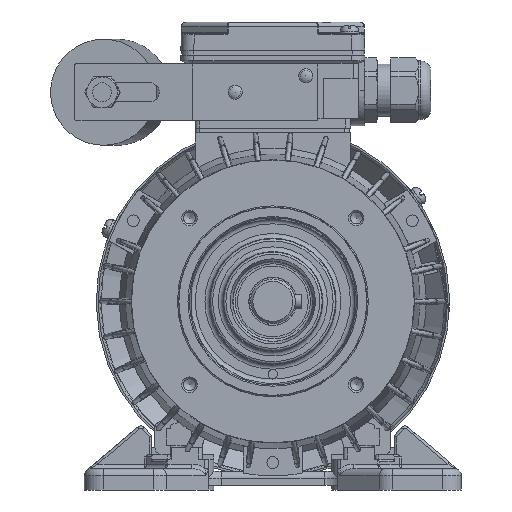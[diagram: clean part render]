
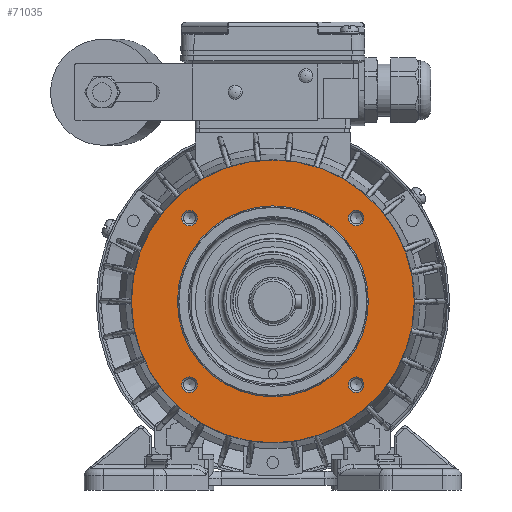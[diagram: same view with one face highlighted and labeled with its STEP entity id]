
A CAD part, left-side view. The second image highlights one B-rep face of the part: STEP entity #71035.
In plain terms, the highlighted planar face has unit normal (-1, 0, 0).
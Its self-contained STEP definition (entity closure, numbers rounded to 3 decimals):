
#9367=PLANE('',#75222);
#20945=ORIENTED_EDGE('',*,*,#32075,.T.);
#20946=ORIENTED_EDGE('',*,*,#32076,.T.);
#20947=ORIENTED_EDGE('',*,*,#32077,.T.);
#20948=ORIENTED_EDGE('',*,*,#32078,.T.);
#20949=ORIENTED_EDGE('',*,*,#32079,.T.);
#20950=ORIENTED_EDGE('',*,*,#31888,.T.);
#31888=EDGE_CURVE('',#38244,#38244,#41776,.T.);
#32075=EDGE_CURVE('',#38360,#38360,#41820,.F.);
#32076=EDGE_CURVE('',#38361,#38361,#41821,.F.);
#32077=EDGE_CURVE('',#38362,#38362,#41822,.F.);
#32078=EDGE_CURVE('',#38363,#38363,#41823,.F.);
#32079=EDGE_CURVE('',#38364,#38364,#41824,.F.);
#38244=VERTEX_POINT('',#110434);
#38360=VERTEX_POINT('',#112437);
#38361=VERTEX_POINT('',#112439);
#38362=VERTEX_POINT('',#112441);
#38363=VERTEX_POINT('',#112443);
#38364=VERTEX_POINT('',#112445);
#41776=CIRCLE('',#75109,60.);
#41820=CIRCLE('',#75223,3.3);
#41821=CIRCLE('',#75224,3.3);
#41822=CIRCLE('',#75225,3.3);
#41823=CIRCLE('',#75226,3.3);
#41824=CIRCLE('',#75227,40.5);
#44606=EDGE_LOOP('',(#20945));
#44607=EDGE_LOOP('',(#20946));
#44608=EDGE_LOOP('',(#20947));
#44609=EDGE_LOOP('',(#20948));
#44610=EDGE_LOOP('',(#20949));
#44611=EDGE_LOOP('',(#20950));
#48019=FACE_BOUND('',#44606,.T.);
#48020=FACE_BOUND('',#44607,.T.);
#48021=FACE_BOUND('',#44608,.T.);
#48022=FACE_BOUND('',#44609,.T.);
#48023=FACE_BOUND('',#44610,.T.);
#48024=FACE_BOUND('',#44611,.T.);
#71035=ADVANCED_FACE('',(#48019,#48020,#48021,#48022,#48023,#48024),#9367,
 .T.);
#75109=AXIS2_PLACEMENT_3D('',#110433,#85365,#85366);
#75222=AXIS2_PLACEMENT_3D('',#112435,#85633,#85634);
#75223=AXIS2_PLACEMENT_3D('',#112436,#85635,#85636);
#75224=AXIS2_PLACEMENT_3D('',#112438,#85637,#85638);
#75225=AXIS2_PLACEMENT_3D('',#112440,#85639,#85640);
#75226=AXIS2_PLACEMENT_3D('',#112442,#85641,#85642);
#75227=AXIS2_PLACEMENT_3D('',#112444,#85643,#85644);
#85365=DIRECTION('',(-1.,0.,0.));
#85366=DIRECTION('',(0.,0.,-1.));
#85633=DIRECTION('',(-1.,0.,0.));
#85634=DIRECTION('',(0.,0.,-1.));
#85635=DIRECTION('',(-1.,0.,0.));
#85636=DIRECTION('',(0.,0.,-1.));
#85637=DIRECTION('',(-1.,0.,0.));
#85638=DIRECTION('',(0.,0.,-1.));
#85639=DIRECTION('',(-1.,0.,0.));
#85640=DIRECTION('',(0.,0.,-1.));
#85641=DIRECTION('',(-1.,0.,0.));
#85642=DIRECTION('',(0.,0.,-1.));
#85643=DIRECTION('',(-1.,0.,0.));
#85644=DIRECTION('',(0.,0.,-1.));
#110433=CARTESIAN_POINT('',(-44.8,0.,0.));
#110434=CARTESIAN_POINT('',(-44.8,0.,-60.));
#112435=CARTESIAN_POINT('',(-44.8,0.,40.));
#112436=CARTESIAN_POINT('',(-44.8,35.355,-35.355));
#112437=CARTESIAN_POINT('',(-44.8,35.355,-38.655));
#112438=CARTESIAN_POINT('',(-44.8,-35.355,-35.355));
#112439=CARTESIAN_POINT('',(-44.8,-35.355,-38.655));
#112440=CARTESIAN_POINT('',(-44.8,-35.355,35.355));
#112441=CARTESIAN_POINT('',(-44.8,-35.355,32.055));
#112442=CARTESIAN_POINT('',(-44.8,35.355,35.355));
#112443=CARTESIAN_POINT('',(-44.8,35.355,32.055));
#112444=CARTESIAN_POINT('',(-44.8,0.,0.));
#112445=CARTESIAN_POINT('',(-44.8,0.,-40.5));
